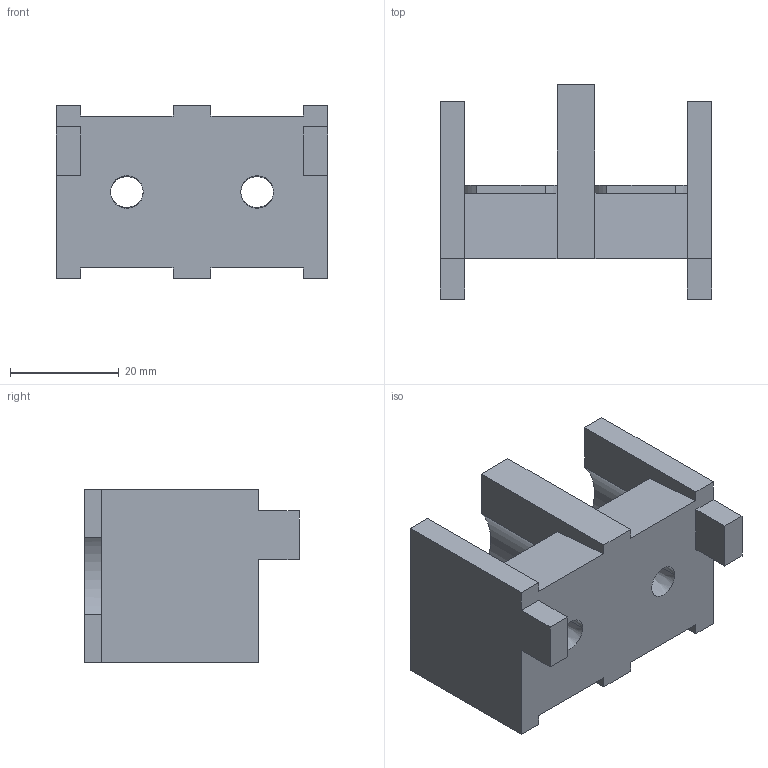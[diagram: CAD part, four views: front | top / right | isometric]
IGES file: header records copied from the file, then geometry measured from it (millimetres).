
Start section:  PTC IGES file: j4-du9-11k-te2.igs
Global section: file name: j4-du9-11k-te2.igs; native system: Creo Parametric by Parametric Technology Corporation; preprocessor: 2014310; author: JR20012; organization: Unknown; date: 20160927.133803; units: millimetre
Bounding box: 50 x 39.5 x 32 mm (x, y, z)
Volume: 25595.8 mm3; surface area: 10211.8 mm2
Topology: 1 solids, 1 shells, 60 faces, 168 edges, 112 vertices
Faces by surface type: bspline 60
